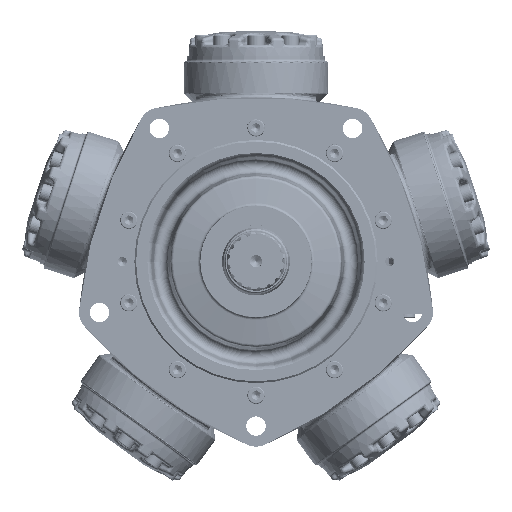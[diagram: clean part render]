
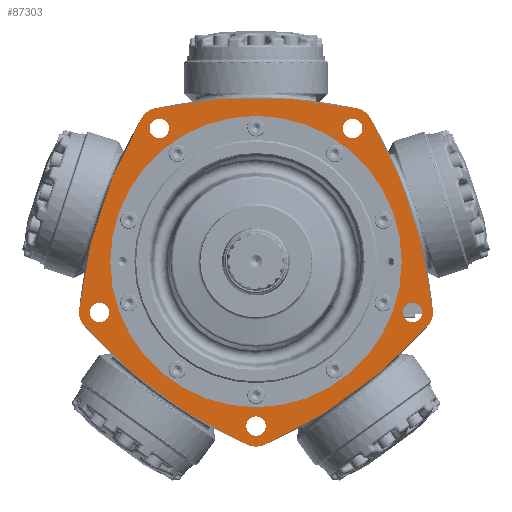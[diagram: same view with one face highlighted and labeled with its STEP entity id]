
A CAD part, top view. The second image highlights one B-rep face of the part: STEP entity #87303.
In plain terms, the highlighted planar face has unit normal (0, 0, 1).
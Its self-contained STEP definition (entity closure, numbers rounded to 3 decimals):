
#3138=FACE_BOUND('',#20676,.T.);
#3139=FACE_BOUND('',#20677,.T.);
#3140=FACE_BOUND('',#20678,.T.);
#3141=FACE_BOUND('',#20679,.T.);
#3142=FACE_BOUND('',#20680,.T.);
#3143=FACE_BOUND('',#20681,.T.);
#9995=PLANE('',#95023);
#15184=FACE_OUTER_BOUND('',#20675,.T.);
#20675=EDGE_LOOP('',(#76158,#76159,#76160,#76161,#76162,#76163,#76164,#76165,
#76166,#76167));
#20676=EDGE_LOOP('',(#76168));
#20677=EDGE_LOOP('',(#76169));
#20678=EDGE_LOOP('',(#76170));
#20679=EDGE_LOOP('',(#76171));
#20680=EDGE_LOOP('',(#76172));
#20681=EDGE_LOOP('',(#76173));
#31765=CIRCLE('',#94448,444.5);
#31768=CIRCLE('',#94452,19.05);
#31770=CIRCLE('',#94455,444.5);
#31773=CIRCLE('',#94459,19.05);
#31775=CIRCLE('',#94462,19.05);
#32093=CIRCLE('',#94998,444.5);
#32094=CIRCLE('',#95000,19.05);
#32095=CIRCLE('',#95002,444.5);
#32096=CIRCLE('',#95004,19.05);
#32097=CIRCLE('',#95006,444.5);
#32107=CIRCLE('',#95024,9.);
#32108=CIRCLE('',#95025,9.);
#32109=CIRCLE('',#95026,9.);
#32110=CIRCLE('',#95027,9.);
#32111=CIRCLE('',#95028,9.);
#32112=CIRCLE('',#95029,134.957);
#38822=VERTEX_POINT('',#211329);
#38823=VERTEX_POINT('',#211330);
#38834=VERTEX_POINT('',#211432);
#38836=VERTEX_POINT('',#211438);
#38846=VERTEX_POINT('',#211538);
#38848=VERTEX_POINT('',#211544);
#39459=VERTEX_POINT('',#222594);
#39460=VERTEX_POINT('',#222598);
#39461=VERTEX_POINT('',#222602);
#39462=VERTEX_POINT('',#222606);
#39475=VERTEX_POINT('',#223043);
#39476=VERTEX_POINT('',#223045);
#39477=VERTEX_POINT('',#223047);
#39478=VERTEX_POINT('',#223049);
#39479=VERTEX_POINT('',#223051);
#39480=VERTEX_POINT('',#223053);
#50657=EDGE_CURVE('',#38822,#38823,#31765,.T.);
#50669=EDGE_CURVE('',#38823,#38834,#31768,.T.);
#50672=EDGE_CURVE('',#38834,#38836,#31770,.T.);
#50683=EDGE_CURVE('',#38836,#38846,#31773,.T.);
#50686=EDGE_CURVE('',#38848,#38822,#31775,.T.);
#51721=EDGE_CURVE('',#39459,#38848,#32093,.T.);
#51723=EDGE_CURVE('',#39460,#39459,#32094,.T.);
#51725=EDGE_CURVE('',#39461,#39460,#32095,.T.);
#51727=EDGE_CURVE('',#39462,#39461,#32096,.T.);
#51729=EDGE_CURVE('',#38846,#39462,#32097,.T.);
#51755=EDGE_CURVE('',#39475,#39475,#32107,.T.);
#51756=EDGE_CURVE('',#39476,#39476,#32108,.T.);
#51757=EDGE_CURVE('',#39477,#39477,#32109,.T.);
#51758=EDGE_CURVE('',#39478,#39478,#32110,.T.);
#51759=EDGE_CURVE('',#39479,#39479,#32111,.T.);
#51760=EDGE_CURVE('',#39480,#39480,#32112,.T.);
#76158=ORIENTED_EDGE('',*,*,#50686,.F.);
#76159=ORIENTED_EDGE('',*,*,#51721,.F.);
#76160=ORIENTED_EDGE('',*,*,#51723,.F.);
#76161=ORIENTED_EDGE('',*,*,#51725,.F.);
#76162=ORIENTED_EDGE('',*,*,#51727,.F.);
#76163=ORIENTED_EDGE('',*,*,#51729,.F.);
#76164=ORIENTED_EDGE('',*,*,#50683,.F.);
#76165=ORIENTED_EDGE('',*,*,#50672,.F.);
#76166=ORIENTED_EDGE('',*,*,#50669,.F.);
#76167=ORIENTED_EDGE('',*,*,#50657,.F.);
#76168=ORIENTED_EDGE('',*,*,#51755,.T.);
#76169=ORIENTED_EDGE('',*,*,#51756,.T.);
#76170=ORIENTED_EDGE('',*,*,#51757,.T.);
#76171=ORIENTED_EDGE('',*,*,#51758,.T.);
#76172=ORIENTED_EDGE('',*,*,#51759,.T.);
#76173=ORIENTED_EDGE('',*,*,#51760,.F.);
#87303=ADVANCED_FACE('',(#15184,#3138,#3139,#3140,#3141,#3142,#3143),#9995,
 .F.);
#94448=AXIS2_PLACEMENT_3D('',#211331,#112809,#112810);
#94452=AXIS2_PLACEMENT_3D('',#211433,#112821,#112822);
#94455=AXIS2_PLACEMENT_3D('',#211439,#112828,#112829);
#94459=AXIS2_PLACEMENT_3D('',#211539,#112839,#112840);
#94462=AXIS2_PLACEMENT_3D('',#211545,#112846,#112847);
#94998=AXIS2_PLACEMENT_3D('',#222595,#114063,#114064);
#95000=AXIS2_PLACEMENT_3D('',#222599,#114068,#114069);
#95002=AXIS2_PLACEMENT_3D('',#222603,#114073,#114074);
#95004=AXIS2_PLACEMENT_3D('',#222607,#114078,#114079);
#95006=AXIS2_PLACEMENT_3D('',#222610,#114083,#114084);
#95023=AXIS2_PLACEMENT_3D('',#223042,#114117,#114118);
#95024=AXIS2_PLACEMENT_3D('',#223044,#114119,#114120);
#95025=AXIS2_PLACEMENT_3D('',#223046,#114121,#114122);
#95026=AXIS2_PLACEMENT_3D('',#223048,#114123,#114124);
#95027=AXIS2_PLACEMENT_3D('',#223050,#114125,#114126);
#95028=AXIS2_PLACEMENT_3D('',#223052,#114127,#114128);
#95029=AXIS2_PLACEMENT_3D('',#223054,#114129,#114130);
#112809=DIRECTION('center_axis',(0.,0.,-1.));
#112810=DIRECTION('ref_axis',(-0.745,0.667,0.));
#112821=DIRECTION('center_axis',(0.,0.,-1.));
#112822=DIRECTION('ref_axis',(-0.404,0.915,0.));
#112828=DIRECTION('center_axis',(0.,0.,-1.));
#112829=DIRECTION('ref_axis',(0.404,0.915,0.));
#112839=DIRECTION('center_axis',(0.,0.,-1.));
#112840=DIRECTION('ref_axis',(0.745,0.667,0.));
#112846=DIRECTION('center_axis',(0.,0.,-1.));
#112847=DIRECTION('ref_axis',(-0.995,-0.102,0.));
#114063=DIRECTION('center_axis',(0.,0.,-1.));
#114064=DIRECTION('ref_axis',(-0.865,-0.502,0.));
#114068=DIRECTION('center_axis',(0.,0.,-1.));
#114069=DIRECTION('ref_axis',(-0.211,-0.978,0.));
#114073=DIRECTION('center_axis',(0.,0.,-1.));
#114074=DIRECTION('ref_axis',(0.211,-0.978,0.));
#114078=DIRECTION('center_axis',(0.,0.,-1.));
#114079=DIRECTION('ref_axis',(0.865,-0.502,0.));
#114083=DIRECTION('center_axis',(0.,0.,-1.));
#114084=DIRECTION('ref_axis',(0.995,-0.102,0.));
#114117=DIRECTION('center_axis',(0.,0.,-1.));
#114118=DIRECTION('ref_axis',(-1.,0.,0.));
#114119=DIRECTION('center_axis',(0.,0.,-1.));
#114120=DIRECTION('ref_axis',(-1.,0.,0.));
#114121=DIRECTION('center_axis',(0.,0.,-1.));
#114122=DIRECTION('ref_axis',(-1.,0.,0.));
#114123=DIRECTION('center_axis',(0.,0.,-1.));
#114124=DIRECTION('ref_axis',(-1.,0.,0.));
#114125=DIRECTION('center_axis',(0.,0.,-1.));
#114126=DIRECTION('ref_axis',(-1.,0.,0.));
#114127=DIRECTION('center_axis',(0.,0.,-1.));
#114128=DIRECTION('ref_axis',(-1.,0.,0.));
#114129=DIRECTION('center_axis',(0.,0.,1.));
#114130=DIRECTION('ref_axis',(-1.,0.,0.));
#211329=CARTESIAN_POINT('',(159.132,-59.803,81.534));
#211330=CARTESIAN_POINT('',(7.701,-169.824,81.534));
#211331=CARTESIAN_POINT('Origin',(-171.997,236.733,81.534));
#211432=CARTESIAN_POINT('',(-7.701,-169.824,81.534));
#211433=CARTESIAN_POINT('Origin',(0.,-152.4,81.534));
#211438=CARTESIAN_POINT('',(-159.132,-59.803,81.534));
#211439=CARTESIAN_POINT('Origin',(171.997,236.733,81.534));
#211538=CARTESIAN_POINT('',(-163.892,-45.154,81.534));
#211539=CARTESIAN_POINT('Origin',(-144.941,-47.094,81.534));
#211544=CARTESIAN_POINT('',(163.892,-45.154,81.534));
#211545=CARTESIAN_POINT('Origin',(144.941,-47.094,81.534));
#222594=CARTESIAN_POINT('',(106.05,132.864,81.534));
#222595=CARTESIAN_POINT('Origin',(-278.297,-90.424,81.534));
#222598=CARTESIAN_POINT('',(93.589,141.917,81.534));
#222599=CARTESIAN_POINT('Origin',(89.578,123.294,81.534));
#222602=CARTESIAN_POINT('',(-93.589,141.917,81.534));
#222603=CARTESIAN_POINT('Origin',(0.,-292.619,
81.534));
#222606=CARTESIAN_POINT('',(-106.05,132.864,81.534));
#222607=CARTESIAN_POINT('Origin',(-89.578,123.294,81.534));
#222610=CARTESIAN_POINT('Origin',(278.297,-90.424,81.534));
#223042=CARTESIAN_POINT('Origin',(0.,233.59,81.534));
#223043=CARTESIAN_POINT('',(-80.578,123.294,81.534));
#223044=CARTESIAN_POINT('Origin',(-89.578,123.294,81.534));
#223045=CARTESIAN_POINT('',(98.578,123.294,81.534));
#223046=CARTESIAN_POINT('Origin',(89.578,123.294,81.534));
#223047=CARTESIAN_POINT('',(-135.941,-47.094,81.534));
#223048=CARTESIAN_POINT('Origin',(-144.941,-47.094,81.534));
#223049=CARTESIAN_POINT('',(153.941,-47.094,81.534));
#223050=CARTESIAN_POINT('Origin',(144.941,-47.094,81.534));
#223051=CARTESIAN_POINT('',(9.,-152.4,81.534));
#223052=CARTESIAN_POINT('Origin',(0.,-152.4,81.534));
#223053=CARTESIAN_POINT('',(0.,-134.957,81.534));
#223054=CARTESIAN_POINT('Origin',(0.,0.,81.534));
